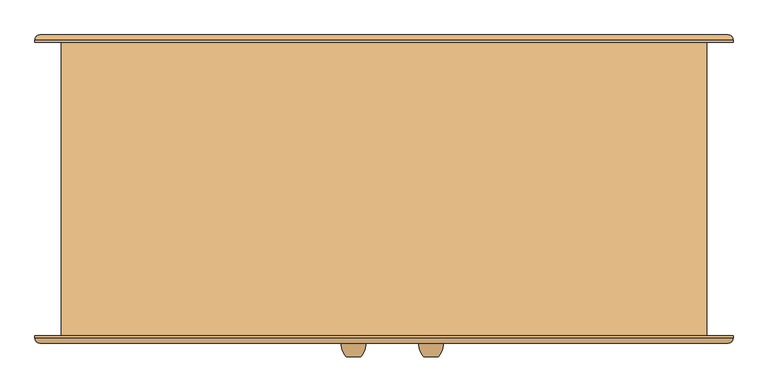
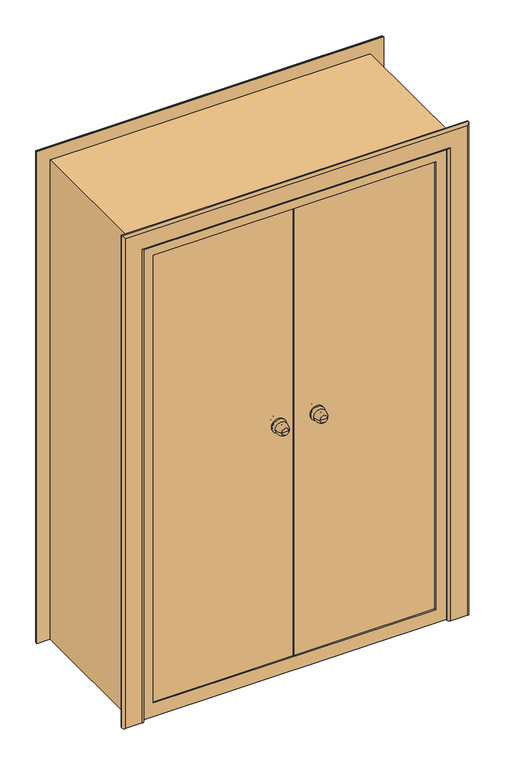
"""IFC4 building model written with IfcOpenShell, lengths in millimetres: door geometry, Наружная дверь 2-Навесная - Один проем наружу с порогом - 31173-2003 : ДСН ДКН М2 2100-1300 ГОСТ 31173-2003."""

from ifc_helpers import new_model, si_unit, point, frame, origin, place, context, project, spatial, polyline, circle_curve, ellipse_curve, trimmed, outline, extrude, faceted_brep, source, transform, mapped, element, save
from ifc_brep_helpers import plane_surface, cylinder_surface, revolved_surface, advanced_brep


def door_47037448(model_context):
    return source(origin(), model_context, "Body", "SolidModel", [
        advanced_brep(
        [(113.0, -348.0, 1100.0), (83.0, -348.0, 1100.0), (98.0, -348.0, 1100.0), (123.0, -318.0, 1100.0), (73.0, -318.0, 1100.0), (116.0, -318.0, 1100.0), (80.0, -318.0, 1100.0), (108.0, -310.0, 1100.0), (88.0, -310.0, 1100.0), (108.0, -304.0, 1100.0), (88.0, -304.0, 1100.0), (68.0, -304.0, 1100.0), (128.0, -304.0, 1100.0), (68.0, -298.0, 1100.0), (128.0, -298.0, 1100.0)],
        [
            (0, 1, circle_curve(frame((98.0, -348.0, 1100.0), z_axis=(0.0, -1.0, 0.0), x_axis=(-1.0, 0.0, 0.0)), 15.0)),
            (1, 2),
            (2, 0),
            (1, 0, circle_curve(frame((98.0, -348.0, 1100.0), z_axis=(0.0, -1.0, 0.0), x_axis=(-1.0, 0.0, 0.0)), 15.0)),
            (0, 3, circle_curve(frame((88.3773735, -323.1257912, 1100.0), z_axis=(0.0, 0.0, 1.0), x_axis=(-1.0, 0.0, 0.0)), 35.0)),
            (3, 4, circle_curve(frame((98.0, -318.0, 1100.0), z_axis=(0.0, -1.0, 0.0), x_axis=(-1.0, 0.0, 0.0)), 25.0)),
            (4, 1, circle_curve(frame((107.6226265, -323.1257912, 1100.0), z_axis=(0.0, 0.0, 1.0), x_axis=(1.0, 0.0, 0.0)), 35.0)),
            (4, 3, circle_curve(frame((98.0, -318.0, 1100.0), z_axis=(0.0, -1.0, 0.0), x_axis=(-1.0, 0.0, 0.0)), 25.0)),
            (3, 5),
            (5, 6, circle_curve(frame((98.0, -318.0, 1100.0), z_axis=(0.0, -1.0, 0.0), x_axis=(-1.0, 0.0, 0.0)), 18.0)),
            (6, 4),
            (6, 5, circle_curve(frame((98.0, -318.0, 1100.0), z_axis=(0.0, -1.0, 0.0), x_axis=(-1.0, 0.0, 0.0)), 18.0)),
            (5, 7, circle_curve(frame((116.0, -310.0, 1100.0), z_axis=(0.0, 0.0, -1.0), x_axis=(-1.0, 0.0, 0.0)), 8.0)),
            (7, 8, circle_curve(frame((98.0, -310.0, 1100.0), z_axis=(0.0, -1.0, 0.0), x_axis=(-1.0, 0.0, 0.0)), 10.0)),
            (8, 6, circle_curve(frame((80.0, -310.0, 1100.0), z_axis=(0.0, 0.0, -1.0), x_axis=(1.0, 0.0, 0.0)), 8.0)),
            (8, 7, circle_curve(frame((98.0, -310.0, 1100.0), z_axis=(0.0, -1.0, 0.0), x_axis=(-1.0, 0.0, 0.0)), 10.0)),
            (7, 9),
            (9, 10, circle_curve(frame((98.0, -304.0, 1100.0), z_axis=(0.0, -1.0, 0.0), x_axis=(-1.0, 0.0, 0.0)), 10.0)),
            (10, 8),
            (10, 9, circle_curve(frame((98.0, -304.0, 1100.0), z_axis=(0.0, -1.0, 0.0), x_axis=(-1.0, 0.0, 0.0)), 10.0)),
            (11, 12, circle_curve(frame((98.0, -304.0, 1100.0), z_axis=(0.0, -1.0, 0.0), x_axis=(1.0, 0.0, 0.0)), 30.0)),
            (12, 11, circle_curve(frame((98.0, -304.0, 1100.0), z_axis=(0.0, -1.0, 0.0), x_axis=(1.0, 0.0, 0.0)), 30.0)),
            (13, 14, circle_curve(frame((98.0, -298.0, 1100.0), z_axis=(0.0, 1.0, 0.0), x_axis=(1.0, 0.0, 0.0)), 30.0)),
            (14, 13, circle_curve(frame((98.0, -298.0, 1100.0), z_axis=(0.0, 1.0, 0.0), x_axis=(1.0, 0.0, 0.0)), 30.0)),
            (11, 13),
            (14, 12),
        ],
        [
            plane_surface(frame((98.0, -348.0, 1100.0), z_axis=(0.0, -1.0, 0.0), x_axis=(-1.0, 0.0, 0.0))),
            revolved_surface(trimmed(ellipse_curve(frame((107.6226265, -323.1257912, 1100.0), z_axis=(0.0, 0.0, -1.0), x_axis=(1.0, 0.0, 0.0)), 35.0, 35.0), [point((83.0, -348.0, 1100.0))], [point((73.0, -318.0, 1100.0))], True, "CARTESIAN"), (98.0, -378.0, 1100.0), (0.0, 1.0, 0.0)),
            plane_surface(frame((98.0, -318.0, 1100.0), z_axis=(0.0, 1.0, 0.0), x_axis=(-1.0, 0.0, 0.0))),
            revolved_surface(trimmed(ellipse_curve(frame((80.0, -310.0, 1100.0), z_axis=(0.0, 0.0, 1.0), x_axis=(1.0, 0.0, 0.0)), 8.0, 8.0), [point((80.0, -318.0, 1100.0))], [point((88.0, -310.0, 1100.0))], True, "CARTESIAN"), (98.0, -378.0, 1100.0), (0.0, 1.0, 0.0)),
            cylinder_surface(frame((98.0, -378.0, 1100.0), z_axis=(0.0, 1.0, 0.0), x_axis=(-1.0, 0.0, 0.0)), 10.0),
            plane_surface(frame((128.0, -304.0, 1100.0), z_axis=(0.0, -1.0, 0.0), x_axis=(0.0, 0.0, 1.0))),
            plane_surface(frame((128.0, -298.0, 1100.0), z_axis=(0.0, 1.0, 0.0), x_axis=(0.0, 0.0, -1.0))),
            cylinder_surface(frame((98.0, -298.0, 1100.0), z_axis=(0.0, -1.0, 0.0), x_axis=(1.0, 0.0, 0.0)), 30.0),
        ],
        [
            (0, [[1, 2, 3]]),
            (0, [[-2, 4, -3]]),
            (1, [[-1, 5, 6, 7]]),
            (1, [[-4, -7, 8, -5]]),
            (2, [[-6, 9, 10, 11]]),
            (2, [[-8, -11, 12, -9]]),
            (3, [[-10, 13, 14, 15]]),
            (3, [[-12, -15, 16, -13]]),
            (4, [[-14, 17, 18, 19]]),
            (4, [[-16, -19, 20, -17]]),
            (5, [[21, 22], [-18, -20]]),
            (6, [[23, 24]]),
            (7, [[-21, 25, -24, 26]]),
            (7, [[-22, -26, -23, -25]]),
        ],
    ),
        advanced_brep(
        [(83.0, -208.0, 1100.0), (113.0, -208.0, 1100.0), (98.0, -208.0, 1100.0), (73.0, -238.0, 1100.0), (123.0, -238.0, 1100.0), (80.0, -238.0, 1100.0), (116.0, -238.0, 1100.0), (88.0, -246.0, 1100.0), (108.0, -246.0, 1100.0), (88.0, -252.0, 1100.0), (108.0, -252.0, 1100.0), (128.0, -252.0, 1100.0), (68.0, -252.0, 1100.0), (128.0, -258.0, 1100.0), (68.0, -258.0, 1100.0)],
        [
            (0, 1, circle_curve(frame((98.0, -208.0, 1100.0), z_axis=(0.0, 1.0, 0.0), x_axis=(1.0, 0.0, 0.0)), 15.0)),
            (1, 2),
            (2, 0),
            (1, 0, circle_curve(frame((98.0, -208.0, 1100.0), z_axis=(0.0, 1.0, 0.0), x_axis=(1.0, 0.0, 0.0)), 15.0)),
            (0, 3, circle_curve(frame((107.6226265, -232.8742088, 1100.0), z_axis=(0.0, 0.0, 1.0), x_axis=(1.0, 0.0, 0.0)), 35.0)),
            (3, 4, circle_curve(frame((98.0, -238.0, 1100.0), z_axis=(0.0, 1.0, 0.0), x_axis=(1.0, 0.0, 0.0)), 25.0)),
            (4, 1, circle_curve(frame((88.3773735, -232.8742088, 1100.0), z_axis=(0.0, 0.0, 1.0), x_axis=(-1.0, 0.0, 0.0)), 35.0)),
            (4, 3, circle_curve(frame((98.0, -238.0, 1100.0), z_axis=(0.0, 1.0, 0.0), x_axis=(1.0, 0.0, 0.0)), 25.0)),
            (3, 5),
            (5, 6, circle_curve(frame((98.0, -238.0, 1100.0), z_axis=(0.0, 1.0, 0.0), x_axis=(1.0, 0.0, 0.0)), 18.0)),
            (6, 4),
            (6, 5, circle_curve(frame((98.0, -238.0, 1100.0), z_axis=(0.0, 1.0, 0.0), x_axis=(1.0, 0.0, 0.0)), 18.0)),
            (5, 7, circle_curve(frame((80.0, -246.0, 1100.0), z_axis=(0.0, 0.0, -1.0), x_axis=(1.0, 0.0, 0.0)), 8.0)),
            (7, 8, circle_curve(frame((98.0, -246.0, 1100.0), z_axis=(0.0, 1.0, 0.0), x_axis=(1.0, 0.0, 0.0)), 10.0)),
            (8, 6, circle_curve(frame((116.0, -246.0, 1100.0), z_axis=(0.0, 0.0, -1.0), x_axis=(-1.0, 0.0, 0.0)), 8.0)),
            (8, 7, circle_curve(frame((98.0, -246.0, 1100.0), z_axis=(0.0, 1.0, 0.0), x_axis=(1.0, 0.0, 0.0)), 10.0)),
            (7, 9),
            (9, 10, circle_curve(frame((98.0, -252.0, 1100.0), z_axis=(0.0, 1.0, 0.0), x_axis=(1.0, 0.0, 0.0)), 10.0)),
            (10, 8),
            (10, 9, circle_curve(frame((98.0, -252.0, 1100.0), z_axis=(0.0, 1.0, 0.0), x_axis=(1.0, 0.0, 0.0)), 10.0)),
            (11, 12, circle_curve(frame((98.0, -252.0, 1100.0), z_axis=(0.0, 1.0, 0.0), x_axis=(-1.0, 0.0, 0.0)), 30.0)),
            (12, 11, circle_curve(frame((98.0, -252.0, 1100.0), z_axis=(0.0, 1.0, 0.0), x_axis=(-1.0, 0.0, 0.0)), 30.0)),
            (13, 14, circle_curve(frame((98.0, -258.0, 1100.0), z_axis=(0.0, -1.0, 0.0), x_axis=(-1.0, 0.0, 0.0)), 30.0)),
            (14, 13, circle_curve(frame((98.0, -258.0, 1100.0), z_axis=(0.0, -1.0, 0.0), x_axis=(-1.0, 0.0, 0.0)), 30.0)),
            (11, 13),
            (14, 12),
        ],
        [
            plane_surface(frame((98.0, -208.0, 1100.0), z_axis=(0.0, 1.0, 0.0), x_axis=(1.0, 0.0, 0.0))),
            revolved_surface(trimmed(ellipse_curve(frame((88.3773735, -232.8742088, 1100.0), z_axis=(0.0, 0.0, -1.0), x_axis=(-1.0, 0.0, 0.0)), 35.0, 35.0), [point((113.0, -208.0, 1100.0))], [point((123.0, -238.0, 1100.0))], True, "CARTESIAN"), (98.0, -178.0, 1100.0), (0.0, -1.0, 0.0)),
            plane_surface(frame((98.0, -238.0, 1100.0), z_axis=(0.0, -1.0, 0.0), x_axis=(1.0, 0.0, 0.0))),
            revolved_surface(trimmed(ellipse_curve(frame((116.0, -246.0, 1100.0), z_axis=(0.0, 0.0, 1.0), x_axis=(-1.0, 0.0, 0.0)), 8.0, 8.0), [point((116.0, -238.0, 1100.0))], [point((108.0, -246.0, 1100.0))], True, "CARTESIAN"), (98.0, -178.0, 1100.0), (0.0, -1.0, 0.0)),
            cylinder_surface(frame((98.0, -178.0, 1100.0), z_axis=(0.0, -1.0, 0.0), x_axis=(1.0, 0.0, 0.0)), 10.0),
            plane_surface(frame((68.0, -252.0, 1100.0), z_axis=(0.0, 1.0, 0.0), x_axis=(0.0, 0.0, 1.0))),
            plane_surface(frame((68.0, -258.0, 1100.0), z_axis=(0.0, -1.0, 0.0), x_axis=(0.0, 0.0, -1.0))),
            cylinder_surface(frame((98.0, -258.0, 1100.0), z_axis=(0.0, 1.0, 0.0), x_axis=(-1.0, 0.0, 0.0)), 30.0),
        ],
        [
            (0, [[1, 2, 3]]),
            (0, [[-2, 4, -3]]),
            (1, [[-1, 5, 6, 7]]),
            (1, [[-4, -7, 8, -5]]),
            (2, [[-6, 9, 10, 11]]),
            (2, [[-8, -11, 12, -9]]),
            (3, [[-10, 13, 14, 15]]),
            (3, [[-12, -15, 16, -13]]),
            (4, [[-14, 17, 18, 19]]),
            (4, [[-16, -19, 20, -17]]),
            (5, [[21, 22], [-18, -20]]),
            (6, [[23, 24]]),
            (7, [[-21, 25, -24, 26]]),
            (7, [[-22, -26, -23, -25]]),
        ],
    ),
        advanced_brep(
        [(-48.0, -348.0, 1100.0), (-78.0, -348.0, 1100.0), (-63.0, -348.0, 1100.0), (-38.0, -318.0, 1100.0), (-88.0, -318.0, 1100.0), (-45.0, -318.0, 1100.0), (-81.0, -318.0, 1100.0), (-53.0, -310.0, 1100.0), (-73.0, -310.0, 1100.0), (-53.0, -304.0, 1100.0), (-73.0, -304.0, 1100.0), (-93.0, -304.0, 1100.0), (-33.0, -304.0, 1100.0), (-93.0, -298.0, 1100.0), (-33.0, -298.0, 1100.0)],
        [
            (0, 1, circle_curve(frame((-63.0, -348.0, 1100.0), z_axis=(0.0, -1.0, 0.0), x_axis=(-1.0, 0.0, 0.0)), 15.0)),
            (1, 2),
            (2, 0),
            (1, 0, circle_curve(frame((-63.0, -348.0, 1100.0), z_axis=(0.0, -1.0, 0.0), x_axis=(-1.0, 0.0, 0.0)), 15.0)),
            (0, 3, circle_curve(frame((-72.6226265, -323.1257912, 1100.0), z_axis=(0.0, 0.0, 1.0), x_axis=(-1.0, 0.0, 0.0)), 35.0)),
            (3, 4, circle_curve(frame((-63.0, -318.0, 1100.0), z_axis=(0.0, -1.0, 0.0), x_axis=(-1.0, 0.0, 0.0)), 25.0)),
            (4, 1, circle_curve(frame((-53.3773735, -323.1257912, 1100.0), z_axis=(0.0, 0.0, 1.0), x_axis=(1.0, 0.0, 0.0)), 35.0)),
            (4, 3, circle_curve(frame((-63.0, -318.0, 1100.0), z_axis=(0.0, -1.0, 0.0), x_axis=(-1.0, 0.0, 0.0)), 25.0)),
            (3, 5),
            (5, 6, circle_curve(frame((-63.0, -318.0, 1100.0), z_axis=(0.0, -1.0, 0.0), x_axis=(-1.0, 0.0, 0.0)), 18.0)),
            (6, 4),
            (6, 5, circle_curve(frame((-63.0, -318.0, 1100.0), z_axis=(0.0, -1.0, 0.0), x_axis=(-1.0, 0.0, 0.0)), 18.0)),
            (5, 7, circle_curve(frame((-45.0, -310.0, 1100.0), z_axis=(0.0, 0.0, -1.0), x_axis=(-1.0, 0.0, 0.0)), 8.0)),
            (7, 8, circle_curve(frame((-63.0, -310.0, 1100.0), z_axis=(0.0, -1.0, 0.0), x_axis=(-1.0, 0.0, 0.0)), 10.0)),
            (8, 6, circle_curve(frame((-81.0, -310.0, 1100.0), z_axis=(0.0, 0.0, -1.0), x_axis=(1.0, 0.0, 0.0)), 8.0)),
            (8, 7, circle_curve(frame((-63.0, -310.0, 1100.0), z_axis=(0.0, -1.0, 0.0), x_axis=(-1.0, 0.0, 0.0)), 10.0)),
            (7, 9),
            (9, 10, circle_curve(frame((-63.0, -304.0, 1100.0), z_axis=(0.0, -1.0, 0.0), x_axis=(-1.0, 0.0, 0.0)), 10.0)),
            (10, 8),
            (10, 9, circle_curve(frame((-63.0, -304.0, 1100.0), z_axis=(0.0, -1.0, 0.0), x_axis=(-1.0, 0.0, 0.0)), 10.0)),
            (11, 12, circle_curve(frame((-63.0, -304.0, 1100.0), z_axis=(0.0, -1.0, 0.0), x_axis=(1.0, 0.0, 0.0)), 30.0)),
            (12, 11, circle_curve(frame((-63.0, -304.0, 1100.0), z_axis=(0.0, -1.0, 0.0), x_axis=(1.0, 0.0, 0.0)), 30.0)),
            (13, 14, circle_curve(frame((-63.0, -298.0, 1100.0), z_axis=(0.0, 1.0, 0.0), x_axis=(1.0, 0.0, 0.0)), 30.0)),
            (14, 13, circle_curve(frame((-63.0, -298.0, 1100.0), z_axis=(0.0, 1.0, 0.0), x_axis=(1.0, 0.0, 0.0)), 30.0)),
            (11, 13),
            (14, 12),
        ],
        [
            plane_surface(frame((-63.0, -348.0, 1100.0), z_axis=(0.0, -1.0, 0.0), x_axis=(-1.0, 0.0, 0.0))),
            revolved_surface(trimmed(ellipse_curve(frame((-53.3773735, -323.1257912, 1100.0), z_axis=(0.0, 0.0, -1.0), x_axis=(1.0, 0.0, 0.0)), 35.0, 35.0), [point((-78.0, -348.0, 1100.0))], [point((-88.0, -318.0, 1100.0))], True, "CARTESIAN"), (-63.0, -378.0, 1100.0), (0.0, 1.0, 0.0)),
            plane_surface(frame((-63.0, -318.0, 1100.0), z_axis=(0.0, 1.0, 0.0), x_axis=(-1.0, 0.0, 0.0))),
            revolved_surface(trimmed(ellipse_curve(frame((-81.0, -310.0, 1100.0), z_axis=(0.0, 0.0, 1.0), x_axis=(1.0, 0.0, 0.0)), 8.0, 8.0), [point((-81.0, -318.0, 1100.0))], [point((-73.0, -310.0, 1100.0))], True, "CARTESIAN"), (-63.0, -378.0, 1100.0), (0.0, 1.0, 0.0)),
            cylinder_surface(frame((-63.0, -378.0, 1100.0), z_axis=(0.0, 1.0, 0.0), x_axis=(-1.0, 0.0, 0.0)), 10.0),
            plane_surface(frame((-33.0, -304.0, 1100.0), z_axis=(0.0, -1.0, 0.0), x_axis=(0.0, 0.0, 1.0))),
            plane_surface(frame((-33.0, -298.0, 1100.0), z_axis=(0.0, 1.0, 0.0), x_axis=(0.0, 0.0, -1.0))),
            cylinder_surface(frame((-63.0, -298.0, 1100.0), z_axis=(0.0, -1.0, 0.0), x_axis=(1.0, 0.0, 0.0)), 30.0),
        ],
        [
            (0, [[1, 2, 3]]),
            (0, [[-2, 4, -3]]),
            (1, [[-1, 5, 6, 7]]),
            (1, [[-4, -7, 8, -5]]),
            (2, [[-6, 9, 10, 11]]),
            (2, [[-8, -11, 12, -9]]),
            (3, [[-10, 13, 14, 15]]),
            (3, [[-12, -15, 16, -13]]),
            (4, [[-14, 17, 18, 19]]),
            (4, [[-16, -19, 20, -17]]),
            (5, [[21, 22], [-18, -20]]),
            (6, [[23, 24]]),
            (7, [[-21, 25, -24, 26]]),
            (7, [[-22, -26, -23, -25]]),
        ],
    ),
        advanced_brep(
        [(-78.0, -208.0, 1100.0), (-48.0, -208.0, 1100.0), (-63.0, -208.0, 1100.0), (-88.0, -238.0, 1100.0), (-38.0, -238.0, 1100.0), (-81.0, -238.0, 1100.0), (-45.0, -238.0, 1100.0), (-73.0, -246.0, 1100.0), (-53.0, -246.0, 1100.0), (-73.0, -252.0, 1100.0), (-53.0, -252.0, 1100.0), (-33.0, -252.0, 1100.0), (-93.0, -252.0, 1100.0), (-33.0, -258.0, 1100.0), (-93.0, -258.0, 1100.0)],
        [
            (0, 1, circle_curve(frame((-63.0, -208.0, 1100.0), z_axis=(0.0, 1.0, 0.0), x_axis=(1.0, 0.0, 0.0)), 15.0)),
            (1, 2),
            (2, 0),
            (1, 0, circle_curve(frame((-63.0, -208.0, 1100.0), z_axis=(0.0, 1.0, 0.0), x_axis=(1.0, 0.0, 0.0)), 15.0)),
            (0, 3, circle_curve(frame((-53.3773735, -232.8742088, 1100.0), z_axis=(0.0, 0.0, 1.0), x_axis=(1.0, 0.0, 0.0)), 35.0)),
            (3, 4, circle_curve(frame((-63.0, -238.0, 1100.0), z_axis=(0.0, 1.0, 0.0), x_axis=(1.0, 0.0, 0.0)), 25.0)),
            (4, 1, circle_curve(frame((-72.6226265, -232.8742088, 1100.0), z_axis=(0.0, 0.0, 1.0), x_axis=(-1.0, 0.0, 0.0)), 35.0)),
            (4, 3, circle_curve(frame((-63.0, -238.0, 1100.0), z_axis=(0.0, 1.0, 0.0), x_axis=(1.0, 0.0, 0.0)), 25.0)),
            (3, 5),
            (5, 6, circle_curve(frame((-63.0, -238.0, 1100.0), z_axis=(0.0, 1.0, 0.0), x_axis=(1.0, 0.0, 0.0)), 18.0)),
            (6, 4),
            (6, 5, circle_curve(frame((-63.0, -238.0, 1100.0), z_axis=(0.0, 1.0, 0.0), x_axis=(1.0, 0.0, 0.0)), 18.0)),
            (5, 7, circle_curve(frame((-81.0, -246.0, 1100.0), z_axis=(0.0, 0.0, -1.0), x_axis=(1.0, 0.0, 0.0)), 8.0)),
            (7, 8, circle_curve(frame((-63.0, -246.0, 1100.0), z_axis=(0.0, 1.0, 0.0), x_axis=(1.0, 0.0, 0.0)), 10.0)),
            (8, 6, circle_curve(frame((-45.0, -246.0, 1100.0), z_axis=(0.0, 0.0, -1.0), x_axis=(-1.0, 0.0, 0.0)), 8.0)),
            (8, 7, circle_curve(frame((-63.0, -246.0, 1100.0), z_axis=(0.0, 1.0, 0.0), x_axis=(1.0, 0.0, 0.0)), 10.0)),
            (7, 9),
            (9, 10, circle_curve(frame((-63.0, -252.0, 1100.0), z_axis=(0.0, 1.0, 0.0), x_axis=(1.0, 0.0, 0.0)), 10.0)),
            (10, 8),
            (10, 9, circle_curve(frame((-63.0, -252.0, 1100.0), z_axis=(0.0, 1.0, 0.0), x_axis=(1.0, 0.0, 0.0)), 10.0)),
            (11, 12, circle_curve(frame((-63.0, -252.0, 1100.0), z_axis=(0.0, 1.0, 0.0), x_axis=(-1.0, 0.0, 0.0)), 30.0)),
            (12, 11, circle_curve(frame((-63.0, -252.0, 1100.0), z_axis=(0.0, 1.0, 0.0), x_axis=(-1.0, 0.0, 0.0)), 30.0)),
            (13, 14, circle_curve(frame((-63.0, -258.0, 1100.0), z_axis=(0.0, -1.0, 0.0), x_axis=(-1.0, 0.0, 0.0)), 30.0)),
            (14, 13, circle_curve(frame((-63.0, -258.0, 1100.0), z_axis=(0.0, -1.0, 0.0), x_axis=(-1.0, 0.0, 0.0)), 30.0)),
            (11, 13),
            (14, 12),
        ],
        [
            plane_surface(frame((-63.0, -208.0, 1100.0), z_axis=(0.0, 1.0, 0.0), x_axis=(1.0, 0.0, 0.0))),
            revolved_surface(trimmed(ellipse_curve(frame((-72.6226265, -232.8742088, 1100.0), z_axis=(0.0, 0.0, -1.0), x_axis=(-1.0, 0.0, 0.0)), 35.0, 35.0), [point((-48.0, -208.0, 1100.0))], [point((-38.0, -238.0, 1100.0))], True, "CARTESIAN"), (-63.0, -178.0, 1100.0), (0.0, -1.0, 0.0)),
            plane_surface(frame((-63.0, -238.0, 1100.0), z_axis=(0.0, -1.0, 0.0), x_axis=(1.0, 0.0, 0.0))),
            revolved_surface(trimmed(ellipse_curve(frame((-45.0, -246.0, 1100.0), z_axis=(0.0, 0.0, 1.0), x_axis=(-1.0, 0.0, 0.0)), 8.0, 8.0), [point((-45.0, -238.0, 1100.0))], [point((-53.0, -246.0, 1100.0))], True, "CARTESIAN"), (-63.0, -178.0, 1100.0), (0.0, -1.0, 0.0)),
            cylinder_surface(frame((-63.0, -178.0, 1100.0), z_axis=(0.0, -1.0, 0.0), x_axis=(1.0, 0.0, 0.0)), 10.0),
            plane_surface(frame((-93.0, -252.0, 1100.0), z_axis=(0.0, 1.0, 0.0), x_axis=(0.0, 0.0, 1.0))),
            plane_surface(frame((-93.0, -258.0, 1100.0), z_axis=(0.0, -1.0, 0.0), x_axis=(0.0, 0.0, -1.0))),
            cylinder_surface(frame((-63.0, -258.0, 1100.0), z_axis=(0.0, 1.0, 0.0), x_axis=(-1.0, 0.0, 0.0)), 30.0),
        ],
        [
            (0, [[1, 2, 3]]),
            (0, [[-2, 4, -3]]),
            (1, [[-1, 5, 6, 7]]),
            (1, [[-4, -7, 8, -5]]),
            (2, [[-6, 9, 10, 11]]),
            (2, [[-8, -11, 12, -9]]),
            (3, [[-10, 13, 14, 15]]),
            (3, [[-12, -15, 16, -13]]),
            (4, [[-14, 17, 18, 19]]),
            (4, [[-16, -19, 20, -17]]),
            (5, [[21, 22], [-18, -20]]),
            (6, [[23, 24]]),
            (7, [[-21, 25, -24, 26]]),
            (7, [[-22, -26, -23, -25]]),
        ],
    ),
        faceted_brep([(38.0, -258.0, 25.0), (625.0, -258.0, 25.0), (625.0, -263.0, 25.0), (38.0, -263.0, 25.0), (38.0, -258.0, 2075.0), (625.0, -258.0, 2075.0), (625.0, -263.0, 2075.0), (38.0, -263.0, 2075.0), (38.0, -263.0, 2055.0), (605.0, -263.0, 2055.0), (605.0, -263.0, 45.0), (38.0, -263.0, 45.0), (38.0, -279.0, 45.0), (38.0, -279.0, 2055.0), (605.0, -298.0, 2055.0), (605.0, -298.0, 45.0), (3.0, -298.0, 45.0), (3.0, -279.0, 45.0), (3.0, -298.0, 2055.0), (3.0, -279.0, 2055.0)], [[[0, 1, 2, 3]], [[4, 5, 1, 0]], [[5, 6, 2, 1]], [[6, 7, 8, 9, 10, 11, 3, 2]], [[4, 0, 3, 11, 12, 13, 8, 7]], [[9, 14, 15, 10]], [[11, 10, 15, 16, 17, 12]], [[14, 18, 16, 15]], [[18, 19, 17, 16]], [[19, 13, 12, 17]], [[9, 8, 13, 19, 18, 14]], [[6, 5, 4, 7]]]),
        faceted_brep([(32.0, -263.0, 25.0), (-625.0, -263.0, 25.0), (-625.0, -258.0, 25.0), (32.0, -258.0, 25.0), (32.0, -263.0, 45.0), (-605.0, -263.0, 45.0), (-605.0, -263.0, 2055.0), (32.0, -263.0, 2055.0), (32.0, -263.0, 2075.0), (-625.0, -263.0, 2075.0), (-625.0, -258.0, 2075.0), (32.0, -258.0, 2075.0), (32.0, -273.0, 2055.0), (32.0, -273.0, 45.0), (-3.0, -273.0, 45.0), (-3.0, -298.0, 45.0), (-605.0, -298.0, 45.0), (-605.0, -298.0, 2055.0), (-3.0, -298.0, 2055.0), (-3.0, -273.0, 2055.0)], [[[0, 1, 2, 3]], [[0, 4, 5, 6, 7, 8, 9, 1]], [[1, 9, 10, 2]], [[10, 11, 3, 2]], [[3, 11, 8, 7, 12, 13, 4, 0]], [[5, 4, 13, 14, 15, 16]], [[17, 6, 5, 16]], [[18, 17, 16, 15]], [[19, 18, 15, 14]], [[12, 19, 14, 13]], [[11, 10, 9, 8]], [[7, 6, 17, 18, 19, 12]]]),
        extrude(outline(polyline([(0.0, 635.0), (0.0, 650.0), (2100.0, 650.0), (2100.0, -650.0), (0.0, -650.0), (0.0, -635.0), (2085.0, -635.0), (2085.0, 635.0), (0.0, 635.0)])), frame((0.0, -265.0, 0.0), z_axis=(0.0, 1.0, 0.0), x_axis=(0.0, 0.0, 1.0)), (0.0, 0.0, 1.0), 570.0),
        faceted_brep([(650.0, -265.0, 0.0), (650.0, -305.0, 0.0), (-650.0, -305.0, 0.0), (-650.0, -265.0, 0.0), (-650.0, -305.0, 2100.0), (-650.0, -265.0, 2100.0), (650.0, -305.0, 2100.0), (-590.0, -305.0, 2040.0), (590.0, -305.0, 2040.0), (590.0, -305.0, 60.0), (-590.0, -305.0, 60.0), (650.0, -265.0, 2100.0), (-610.0, -265.0, 40.0), (610.0, -265.0, 40.0), (610.0, -265.0, 2060.0), (-610.0, -265.0, 2060.0), (610.0, -300.0, 40.0), (-610.0, -300.0, 40.0), (-610.0, -300.0, 2060.0), (610.0, -300.0, 2060.0), (-590.0, -300.0, 60.0), (590.0, -300.0, 60.0), (590.0, -300.0, 2040.0), (-590.0, -300.0, 2040.0)], [[[0, 1, 2, 3]], [[3, 2, 4, 5]], [[2, 1, 6, 4], [7, 8, 9, 10]], [[5, 11, 0, 3], [12, 13, 14, 15]], [[16, 13, 12, 17]], [[17, 12, 15, 18]], [[18, 19, 16, 17], [20, 21, 22, 23]], [[9, 21, 20, 10]], [[10, 20, 23, 7]], [[11, 6, 1, 0]], [[19, 14, 13, 16]], [[8, 22, 21, 9]], [[5, 4, 6, 11]], [[18, 15, 14, 19]], [[7, 23, 22, 8]]]),
        advanced_brep(
        [(-725.0, -305.0, 0.0), (-635.0, -305.0, 0.0), (-635.0, -310.0, 0.0), (-645.0, -320.0, 0.0), (-715.0, -320.0, 0.0), (-725.0, -310.0, 0.0), (-725.0, -305.0, 2175.0), (725.0, -305.0, 2175.0), (725.0, -305.0, 0.0), (635.0, -305.0, 0.0), (635.0, -305.0, 2085.0), (-635.0, -305.0, 2085.0), (-635.0, -310.0, 2085.0), (-645.0, -320.0, 2095.0), (645.0, -320.0, 2095.0), (645.0, -320.0, 0.0), (715.0, -320.0, 0.0), (715.0, -320.0, 2165.0), (-715.0, -320.0, 2165.0), (-725.0, -310.0, 2175.0), (725.0, -310.0, 2175.0), (725.0, -310.0, 0.0), (635.0, -310.0, 0.0), (635.0, -310.0, 2085.0)],
        [
            (0, 1),
            (1, 2),
            (2, 3, circle_curve(frame((-645.0, -310.0, 0.0), z_axis=(0.0, 0.0, -1.0), x_axis=(-1.0, 0.0, 0.0)), 10.0)),
            (3, 4),
            (4, 5, circle_curve(frame((-715.0, -310.0, 0.0), z_axis=(0.0, 0.0, -1.0), x_axis=(-1.0, 0.0, 0.0)), 10.0)),
            (5, 0),
            (0, 6),
            (6, 7),
            (7, 8),
            (8, 9),
            (9, 10),
            (10, 11),
            (11, 1),
            (11, 12),
            (12, 2),
            (12, 13, ellipse_curve(frame((-645.0, -310.0, 2095.0), z_axis=(-0.7071067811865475, 0.0, -0.7071067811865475), x_axis=(0.7071067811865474, 0.0, -0.7071067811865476)), 14.1421356, 10.0)),
            (13, 3),
            (13, 14),
            (14, 15),
            (15, 16),
            (16, 17),
            (17, 18),
            (18, 4),
            (18, 19, ellipse_curve(frame((-715.0, -310.0, 2165.0), z_axis=(-0.7071067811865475, 0.0, -0.7071067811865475), x_axis=(0.7071067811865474, 0.0, -0.7071067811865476)), 14.1421356, 10.0)),
            (19, 5),
            (19, 6),
            (7, 20),
            (20, 21),
            (21, 8),
            (21, 16, circle_curve(frame((715.0, -310.0, 0.0), z_axis=(0.0, 0.0, -1.0), x_axis=(1.0, 0.0, 0.0)), 10.0)),
            (15, 22, circle_curve(frame((645.0, -310.0, 0.0), z_axis=(0.0, 0.0, -1.0), x_axis=(1.0, 0.0, 0.0)), 10.0)),
            (22, 9),
            (23, 10),
            (22, 23),
            (14, 23, ellipse_curve(frame((645.0, -310.0, 2095.0), z_axis=(0.7071067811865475, 0.0, -0.7071067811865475), x_axis=(0.7071067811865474, 0.0, 0.7071067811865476)), 14.1421356, 10.0)),
            (20, 17, ellipse_curve(frame((715.0, -310.0, 2165.0), z_axis=(0.7071067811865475, 0.0, -0.7071067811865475), x_axis=(0.7071067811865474, 0.0, 0.7071067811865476)), 14.1421356, 10.0)),
            (23, 12),
            (20, 19),
        ],
        [
            plane_surface(frame((-670.0, -305.0, 0.0), z_axis=(0.0, 0.0, -1.0), x_axis=(0.0, -1.0, 0.0))),
            plane_surface(frame((-725.0, -305.0, 0.0), z_axis=(0.0, 1.0, 0.0), x_axis=(0.0, 0.0, 1.0))),
            plane_surface(frame((-635.0, -305.0, 0.0), z_axis=(1.0, 0.0, 0.0), x_axis=(0.0, 0.0, 1.0))),
            cylinder_surface(frame((-645.0, -310.0, 0.0), z_axis=(0.0, 0.0, -1.0), x_axis=(-1.0, 0.0, 0.0)), 10.0),
            plane_surface(frame((-645.0, -320.0, 0.0), z_axis=(0.0, -1.0, 0.0), x_axis=(0.0, 0.0, 1.0))),
            cylinder_surface(frame((-715.0, -310.0, 0.0), z_axis=(0.0, 0.0, -1.0), x_axis=(-1.0, 0.0, 0.0)), 10.0),
            plane_surface(frame((-725.0, -310.0, 0.0), z_axis=(-1.0, 0.0, 0.0), x_axis=(0.0, 0.0, 1.0))),
            plane_surface(frame((725.0, -310.0, 2175.0), z_axis=(1.0, 0.0, 0.0), x_axis=(0.0, 0.0, -1.0))),
            plane_surface(frame((670.0, -305.0, 0.0), z_axis=(0.0, 0.0, -1.0), x_axis=(0.0, -1.0, 0.0))),
            plane_surface(frame((635.0, -305.0, 2085.0), z_axis=(-1.0, 0.0, 0.0), x_axis=(0.0, 0.0, -1.0))),
            cylinder_surface(frame((645.0, -310.0, 2120.0), z_axis=(0.0, 0.0, 1.0), x_axis=(1.0, 0.0, 0.0)), 10.0),
            cylinder_surface(frame((715.0, -310.0, 2120.0), z_axis=(0.0, 0.0, 1.0), x_axis=(1.0, 0.0, 0.0)), 10.0),
            plane_surface(frame((-635.0, -305.0, 2085.0), z_axis=(0.0, 0.0, -1.0), x_axis=(1.0, 0.0, 0.0))),
            cylinder_surface(frame((-670.0, -310.0, 2095.0), z_axis=(-1.0, 0.0, 0.0), x_axis=(0.0, 0.0, 1.0)), 10.0),
            cylinder_surface(frame((-670.0, -310.0, 2165.0), z_axis=(-1.0, 0.0, 0.0), x_axis=(0.0, 0.0, 1.0)), 10.0),
            plane_surface(frame((-725.0, -310.0, 2175.0), z_axis=(0.0, 0.0, 1.0), x_axis=(1.0, 0.0, 0.0))),
        ],
        [
            (0, [[1, 2, 3, 4, 5, 6]]),
            (1, [[-1, 7, 8, 9, 10, 11, 12, 13]]),
            (2, [[-2, -13, 14, 15]]),
            (3, [[-3, -15, 16, 17]]),
            (4, [[-4, -17, 18, 19, 20, 21, 22, 23]]),
            (5, [[-5, -23, 24, 25]]),
            (6, [[-6, -25, 26, -7]]),
            (7, [[27, 28, 29, -9]]),
            (8, [[-29, 30, -20, 31, 32, -10]]),
            (9, [[33, -11, -32, 34]]),
            (10, [[35, -34, -31, -19]]),
            (11, [[36, -21, -30, -28]]),
            (12, [[-14, -12, -33, 37]]),
            (13, [[-16, -37, -35, -18]]),
            (14, [[-24, -22, -36, 38]]),
            (15, [[-26, -38, -27, -8]]),
        ],
    ),
        advanced_brep(
        [(725.0, 305.0, 0.0), (635.0, 305.0, 0.0), (635.0, 310.0, 0.0), (645.0, 320.0, 0.0), (715.0, 320.0, 0.0), (725.0, 310.0, 0.0), (725.0, 305.0, 2175.0), (-725.0, 305.0, 2175.0), (-725.0, 305.0, 0.0), (-635.0, 305.0, 0.0), (-635.0, 305.0, 2085.0), (635.0, 305.0, 2085.0), (635.0, 310.0, 2085.0), (645.0, 320.0, 2095.0), (-645.0, 320.0, 2095.0), (-645.0, 320.0, 0.0), (-715.0, 320.0, 0.0), (-715.0, 320.0, 2165.0), (715.0, 320.0, 2165.0), (725.0, 310.0, 2175.0), (-725.0, 310.0, 2175.0), (-725.0, 310.0, 0.0), (-635.0, 310.0, 0.0), (-635.0, 310.0, 2085.0)],
        [
            (0, 1),
            (1, 2),
            (2, 3, circle_curve(frame((645.0, 310.0, 0.0), z_axis=(0.0, 0.0, -1.0), x_axis=(1.0, 0.0, 0.0)), 10.0)),
            (3, 4),
            (4, 5, circle_curve(frame((715.0, 310.0, 0.0), z_axis=(0.0, 0.0, -1.0), x_axis=(1.0, 0.0, 0.0)), 10.0)),
            (5, 0),
            (0, 6),
            (6, 7),
            (7, 8),
            (8, 9),
            (9, 10),
            (10, 11),
            (11, 1),
            (11, 12),
            (12, 2),
            (12, 13, ellipse_curve(frame((645.0, 310.0, 2095.0), z_axis=(0.7071067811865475, 0.0, -0.7071067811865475), x_axis=(-0.7071067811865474, 0.0, -0.7071067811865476)), 14.1421356, 10.0)),
            (13, 3),
            (13, 14),
            (14, 15),
            (15, 16),
            (16, 17),
            (17, 18),
            (18, 4),
            (18, 19, ellipse_curve(frame((715.0, 310.0, 2165.0), z_axis=(0.7071067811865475, 0.0, -0.7071067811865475), x_axis=(-0.7071067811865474, 0.0, -0.7071067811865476)), 14.1421356, 10.0)),
            (19, 5),
            (19, 6),
            (7, 20),
            (20, 21),
            (21, 8),
            (21, 16, circle_curve(frame((-715.0, 310.0, 0.0), z_axis=(0.0, 0.0, -1.0), x_axis=(-1.0, 0.0, 0.0)), 10.0)),
            (15, 22, circle_curve(frame((-645.0, 310.0, 0.0), z_axis=(0.0, 0.0, -1.0), x_axis=(-1.0, 0.0, 0.0)), 10.0)),
            (22, 9),
            (23, 10),
            (22, 23),
            (14, 23, ellipse_curve(frame((-645.0, 310.0, 2095.0), z_axis=(-0.7071067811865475, 0.0, -0.7071067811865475), x_axis=(-0.7071067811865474, 0.0, 0.7071067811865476)), 14.1421356, 10.0)),
            (20, 17, ellipse_curve(frame((-715.0, 310.0, 2165.0), z_axis=(-0.7071067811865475, 0.0, -0.7071067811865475), x_axis=(-0.7071067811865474, 0.0, 0.7071067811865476)), 14.1421356, 10.0)),
            (23, 12),
            (20, 19),
        ],
        [
            plane_surface(frame((670.0, 305.0, 0.0), z_axis=(0.0, 0.0, -1.0), x_axis=(0.0, -1.0, 0.0))),
            plane_surface(frame((725.0, 305.0, 0.0), z_axis=(0.0, -1.0, 0.0), x_axis=(0.0, 0.0, 1.0))),
            plane_surface(frame((635.0, 305.0, 0.0), z_axis=(-1.0, 0.0, 0.0), x_axis=(0.0, 0.0, 1.0))),
            cylinder_surface(frame((645.0, 310.0, 0.0), z_axis=(0.0, 0.0, -1.0), x_axis=(1.0, 0.0, 0.0)), 10.0),
            plane_surface(frame((645.0, 320.0, 0.0), z_axis=(0.0, 1.0, 0.0), x_axis=(0.0, 0.0, 1.0))),
            cylinder_surface(frame((715.0, 310.0, 0.0), z_axis=(0.0, 0.0, -1.0), x_axis=(1.0, 0.0, 0.0)), 10.0),
            plane_surface(frame((725.0, 310.0, 0.0), z_axis=(1.0, 0.0, 0.0), x_axis=(0.0, 0.0, 1.0))),
            plane_surface(frame((-725.0, 310.0, 2175.0), z_axis=(-1.0, 0.0, 0.0), x_axis=(0.0, 0.0, -1.0))),
            plane_surface(frame((-670.0, 305.0, 0.0), z_axis=(0.0, 0.0, -1.0), x_axis=(0.0, -1.0, 0.0))),
            plane_surface(frame((-635.0, 305.0, 2085.0), z_axis=(1.0, 0.0, 0.0), x_axis=(0.0, 0.0, -1.0))),
            cylinder_surface(frame((-645.0, 310.0, 2120.0), z_axis=(0.0, 0.0, 1.0), x_axis=(-1.0, 0.0, 0.0)), 10.0),
            cylinder_surface(frame((-715.0, 310.0, 2120.0), z_axis=(0.0, 0.0, 1.0), x_axis=(-1.0, 0.0, 0.0)), 10.0),
            plane_surface(frame((635.0, 305.0, 2085.0), z_axis=(0.0, 0.0, -1.0), x_axis=(-1.0, 0.0, 0.0))),
            cylinder_surface(frame((670.0, 310.0, 2095.0), z_axis=(1.0, 0.0, 0.0), x_axis=(0.0, 0.0, 1.0)), 10.0),
            cylinder_surface(frame((670.0, 310.0, 2165.0), z_axis=(1.0, 0.0, 0.0), x_axis=(0.0, 0.0, 1.0)), 10.0),
            plane_surface(frame((725.0, 310.0, 2175.0), z_axis=(0.0, 0.0, 1.0), x_axis=(-1.0, 0.0, 0.0))),
        ],
        [
            (0, [[1, 2, 3, 4, 5, 6]]),
            (1, [[-1, 7, 8, 9, 10, 11, 12, 13]]),
            (2, [[-2, -13, 14, 15]]),
            (3, [[-3, -15, 16, 17]]),
            (4, [[-4, -17, 18, 19, 20, 21, 22, 23]]),
            (5, [[-5, -23, 24, 25]]),
            (6, [[-6, -25, 26, -7]]),
            (7, [[27, 28, 29, -9]]),
            (8, [[-29, 30, -20, 31, 32, -10]]),
            (9, [[33, -11, -32, 34]]),
            (10, [[35, -34, -31, -19]]),
            (11, [[36, -21, -30, -28]]),
            (12, [[-14, -12, -33, 37]]),
            (13, [[-16, -37, -35, -18]]),
            (14, [[-24, -22, -36, 38]]),
            (15, [[-26, -38, -27, -8]]),
        ],
    ),
        extrude(outline(polyline([(0.0, 650.0), (0.0, 670.0), (2120.0, 670.0), (2120.0, -670.0), (0.0, -670.0), (0.0, -650.0), (2100.0, -650.0), (2100.0, 650.0), (0.0, 650.0)])), frame((0.0, -305.0, 0.0), z_axis=(0.0, 1.0, 0.0), x_axis=(0.0, 0.0, 1.0)), (0.0, 0.0, 1.0), 610.0),
    ])


if __name__ == "__main__":
    model = new_model("IFC4")
    model_context = context("Model", 3, world=origin())
    ifc_project = project(units=[si_unit("LENGTHUNIT", "METRE", prefix="MILLI")], contexts=[model_context])
    site = spatial("IfcSite", under=ifc_project)
    building = spatial("IfcBuilding", under=site)
    placement = place(None, origin())
    door_shape = door_47037448(model_context)
    element("IfcDoor", 1, ObjectType="Наружная дверь 2-Навесная - Один проем наружу с порогом - 31173-2003 : ДСН ДКН М2 2100-1300 ГОСТ 31173-2003", at=placement, inside=building, context=model_context, shape_type="MappedRepresentation", body=[
        mapped(door_shape, transform((0.0, 0.0, 0.0), x_axis=(1.0, 0.0, 0.0), y_axis=(0.0, 1.0, 0.0), z_axis=(0.0, 0.0, 1.0))),
    ])
    save(model, "model.ifc")
